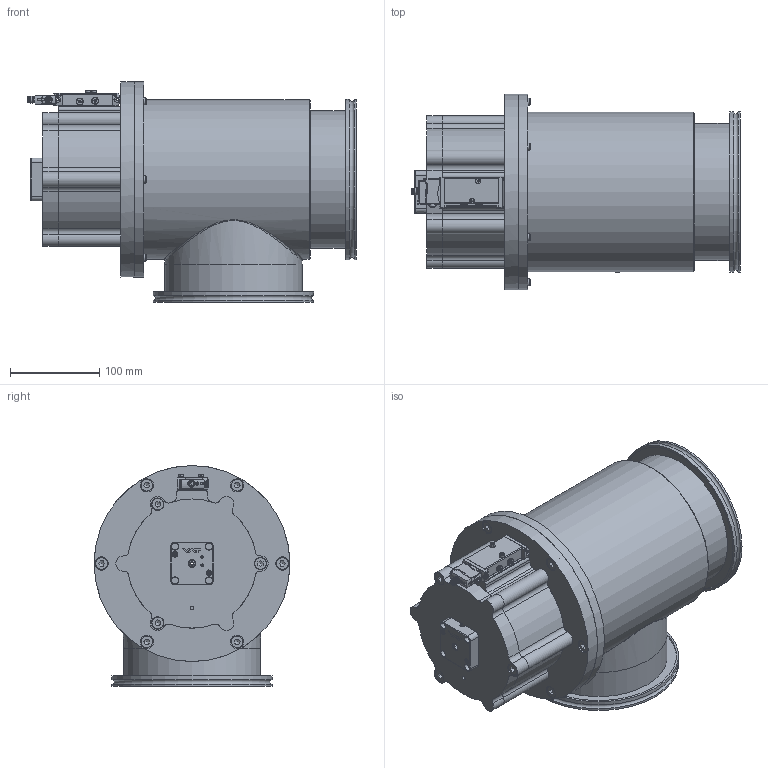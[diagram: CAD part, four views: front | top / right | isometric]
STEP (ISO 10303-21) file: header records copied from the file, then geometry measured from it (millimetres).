
FILE_DESCRIPTION(/* description */ (''),/* implementation_level */ '2;1');
FILE_NAME(/* name */ '1393099700_203.stp',/* time_stamp */ '2013-08-06T11:20:39+02:00',/* author */ (''),/* organization */ (''),/* preprocessor_version */ 'ST-DEVELOPER v11',/* originating_system */ 'SIEMENS PLM Software NX 7.5',/* authorisation */ '');
FILE_SCHEMA (('AP203_CONFIGURATION_CONTROLLED_3D_DESIGN_OF_MECHANICAL_PARTS_AND_ASSEMBLIES_MIM_LF'));
Length unit declared in the file: millimetre
Products named in the file (24): 521703; 521699; 521708; 521706; 521707; 521705; 233359; 236204_1.1; 568561; 571495; n-6134-404.1; n-6005-429.1; n-6121-026.2; 546207_18380ID; 546253; 546505; 228777; 476060; 239983.3; 573596_MODEL; 546204_MODEL; 521696_MODEL; 522333_MODEL; 577307
Assembly tree (35 placements, depth 4):
  577307
    476060
    228777  x9
    522333_MODEL
      521696_MODEL
        521705  x2
        521707
        521706
        521708
        521699
        521703
    546505
    546204_MODEL
      546207_18380ID
      n-6121-026.2
    546253
    573596_MODEL
      n-6005-429.1  x2
      n-6134-404.1  x2
      571495
      568561
    239983.3
      236204_1.1  x2
      233359
Bounding box: 369.15 x 220 x 248 mm (x, y, z)
Volume: 1763437.7 mm3; surface area: 690145.6 mm2
Topology: 52 solids, 59 shells, 1497 faces, 3669 edges, 2373 vertices
Faces by surface type: plane 812, cylinder 468, cone 136, torus 49, bspline 19, extrusion 8, sphere 5
Full cylindrical faces by diameter (mm): 1 x2, 2.46 x2, 2.5 x7, 2.6 x2, 3 x10, 3.2 x4, 3.8 x1, 3.85 x1, 4.2 x2, 4.5 x1, 5.5 x2, 5.6 x2, 5.8 x1, 6 x2, 6.2 x2, 6.5 x2, 6.66 x9, 6.7 x9, 6.8 x12, 6.9 x1, 7.2 x1, 7.4 x3, 8 x22, 8.1 x1, 8.4 x1, 8.566 x1, 9 x12, 10.2 x1, 13 x9, 14 x6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
Entity records: 47627 total; most frequent: CARTESIAN_POINT 9314, DIRECTION 6522, ORIENTED_EDGE 5938, EDGE_CURVE 2969, AXIS2_PLACEMENT_3D 2449, VERTEX_POINT 2043, EDGE_LOOP 1707, VECTOR 1624
